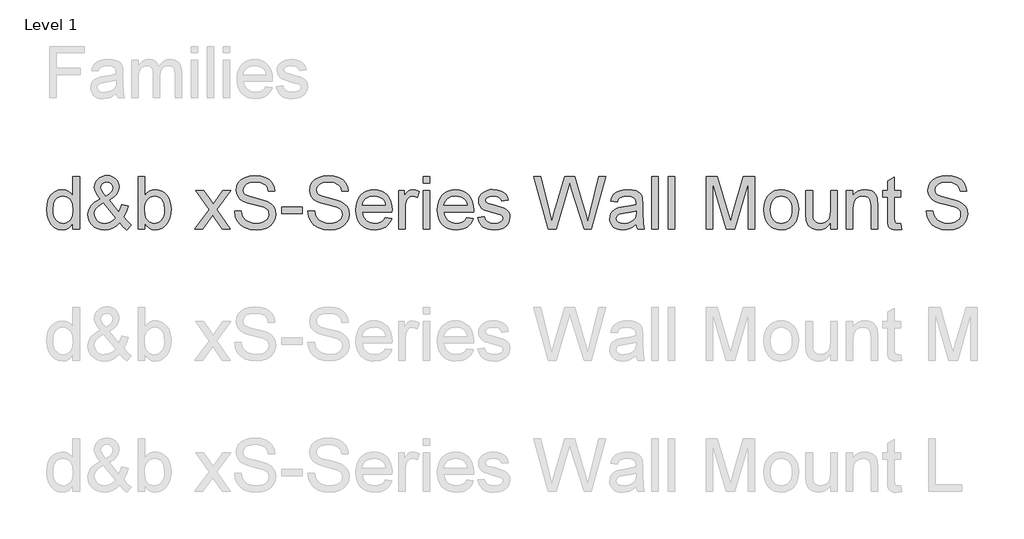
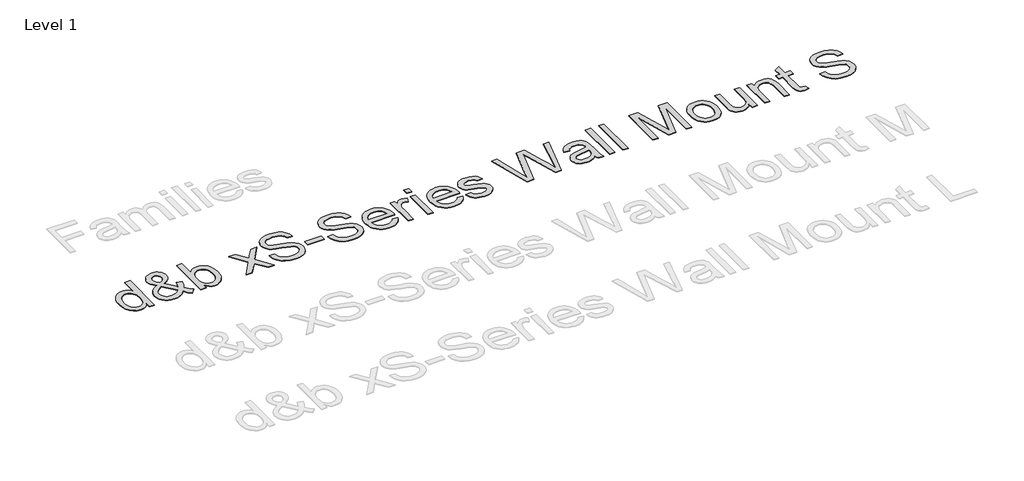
# One storey, part 42 of 55: 1 proxy.
"""IFC4 building model written with IfcOpenShell, lengths in millimetres."""

from ifc_helpers import new_model, si_unit, origin, origin_with_axes, place, context, project, spatial, polyline, outline, extrude, element, save

model = new_model("IFC4")

# Units and contexts
model_context = context("Model", 3, world=origin())
ifc_project = project(units=[si_unit("LENGTHUNIT", "METRE", prefix="MILLI")], contexts=[model_context])

# Site, building, storey
site = spatial("IfcSite", under=ifc_project)
building = spatial("IfcBuilding", under=site)
storey = spatial("IfcBuildingStorey", under=building, Name="Level 1", Elevation=0.0)

# Proxy
placement = place(None, origin())
element("IfcBuildingElementProxy", 1, Name="400mm Arial", ObjectType="400mm Arial", at=placement, inside=storey, context=model_context, shape_type="SweptSolid", body=[
    extrude(outline(polyline([(-20879.8211974, 5351.3054836), (-20879.8211974, 5398.6886846), (-20894.8491769, 5375.2116819), (-20913.0532043, 5358.4423943), (-20934.4332796, 5348.3808217), (-20958.9894028, 5345.0269642), (-20991.4611202, 5349.8830065), (-21021.1859854, 5364.4511335), (-21046.3491139, 5387.7135384), (-21065.1356211, 5418.6524142), (-21076.8342686, 5456.0169621), (-21080.7338177, 5498.5563835), (-21077.1408369, 5540.5685074), (-21066.3618944, 5578.5094038), (-21048.4092531, 5610.2208318), (-21023.2951755, 5633.5445503), (-20992.9203855, 5647.8919481), (-20959.1856065, 5652.674414), (-20934.6110892, 5649.2531115), (-20912.8815261, 5638.9892038), (-20894.4629008, 5623.2561171), (-20879.8211974, 5603.4272776), (-20879.8211974, 5753.1307242), (-20829.5930424, 5753.1307242), (-20829.5930424, 5351.3054836), (-20879.8211974, 5351.3054836)]), holes=[polyline([(-21030.5056627, 5498.7525872), (-21029.089317, 5474.3957335), (-21024.8402799, 5453.3191608), (-21017.7585515, 5435.5228693), (-21007.8441318, 5421.0068589), (-20983.1469871, 5401.6930542), (-20969.2717046, 5396.864603), (-20954.3786151, 5395.2551193), (-20939.415015, 5396.7910266), (-20925.6225058, 5401.3987486), (-20901.5507606, 5419.8296365), (-20892.0440767, 5433.7386416), (-20885.2535882, 5450.8911397), (-20879.8211974, 5494.9266145), (-20885.3516901, 5543.0701049), (-20892.2648059, 5561.6052261), (-20901.9431681, 5576.4492646), (-20913.6448812, 5587.8229496), (-20926.6280499, 5595.9470104), (-20940.8926743, 5600.8214468), (-20956.4387543, 5602.4462589), (-20971.6261493, 5600.8858262), (-20985.5014319, 5596.2045278), (-20998.064602, 5588.4023638), (-21009.3156597, 5577.4793342), (-21018.586286, 5563.1963157), (-21025.2081619, 5545.3141851), (-21030.5056627, 5498.7525872)])]), origin_with_axes(), (0.0, 0.0, 1.0), 5.0),
    extrude(outline(polyline([(-20523.809528, 5400.9450275), (-20549.3405384, 5376.4808748), (-20577.0788409, 5359.00648), (-20607.0734862, 5348.5218431), (-20639.3735254, 5345.0269642), (-20668.6814577, 5347.6144009), (-20694.8010793, 5355.376711), (-20717.7323904, 5368.3138945), (-20737.4753908, 5386.4259514), (-20750.308341, 5403.7961129), (-20759.4747341, 5422.1595558), (-20764.9745699, 5441.5162802), (-20766.8078485, 5461.8662859), (-20760.9094739, 5497.0603301), (-20743.2143499, 5528.6736562), (-20713.796053, 5556.6817387), (-20672.7281596, 5581.0600523), (-20694.6416638, 5609.4114914), (-20707.7995765, 5631.8768186), (-20714.3846642, 5651.0557332), (-20716.5796934, 5669.5479349), (-20714.8506481, 5687.1020374), (-20709.6635119, 5703.4666548), (-20701.018285, 5718.6417871), (-20688.9149674, 5732.6274343), (-20674.1935562, 5744.3444759), (-20657.6940487, 5752.7137912), (-20639.4164449, 5757.7353805), (-20619.3607448, 5759.4092436), (-20600.212487, 5757.8089569), (-20582.8913764, 5753.0080968), (-20567.397413, 5745.0066634), (-20553.7305969, 5733.8046567), (-20542.5715097, 5720.3585698), (-20534.6007332, 5705.6248959), (-20529.8182672, 5689.603635), (-20528.2241119, 5672.2947871), (-20532.9452642, 5644.31123), (-20547.108721, 5618.436863), (-20570.7144823, 5594.6716861), (-20603.7625482, 5573.0156993), (-20531.069066, 5482.4676776), (-20518.6837055, 5508.3420446), (-20509.3885538, 5538.0914353), (-20459.1603987, 5527.2021282), (-20474.6114425, 5480.6773185), (-20494.6732739, 5444.5022557), (-20466.1256311, 5411.1966724), (-20434.0463211, 5383.6790991), (-20471.7174374, 5345.0269642), (-20497.3465498, 5368.47331), (-20523.809528, 5400.9450275)]), holes=[polyline([(-20557.4584678, 5437.1446158), (-20647.1235727, 5549.0788442), (-20681.3733865, 5527.2266537), (-20702.305872, 5506.9931439), (-20713.0112381, 5487.6670765), (-20716.5796934, 5468.5372127), (-20711.6991256, 5444.8456122), (-20697.0574222, 5420.2710949), (-20686.2784798, 5409.3266056), (-20673.4639236, 5401.5091132), (-20658.6137537, 5396.8186177), (-20641.7279702, 5395.2551193), (-20619.0051256, 5398.1736498), (-20595.5710425, 5406.9292412), (-20574.1480476, 5420.3201459), (-20557.4584678, 5437.1446158)]), polyline([(-20629.1709314, 5604.7026019), (-20602.9041569, 5621.3676562), (-20587.8700461, 5635.8499441), (-20580.8067117, 5649.9398245), (-20578.452267, 5665.4276565), (-20581.5547385, 5682.9756277), (-20590.862153, 5696.9674062), (-20604.829406, 5706.1276679), (-20621.9113933, 5709.1810885), (-20639.3612626, 5706.1521934), (-20653.6473468, 5697.0655081), (-20663.1754905, 5683.6132898), (-20666.3515384, 5667.4877957), (-20662.0350563, 5649.0936959), (-20648.9875082, 5628.639457), (-20629.1709314, 5604.7026019)])]), origin_with_axes(), (0.0, 0.0, 1.0), 5.0),
    extrude(outline(polyline([(-20333.590011, 5351.3054836), (-20383.8181661, 5351.3054836), (-20383.8181661, 5753.1307242), (-20333.590011, 5753.1307242), (-20333.590011, 5604.1139907), (-20317.0721094, 5625.3591759), (-20298.4204923, 5640.5343082), (-20277.6351595, 5649.6393876), (-20254.7161112, 5652.674414), (-20228.8417442, 5649.9398245), (-20204.3898543, 5641.736056), (-20182.758393, 5628.5781433), (-20165.3453119, 5610.9811212), (-20151.6968898, 5589.116668), (-20141.3594058, 5563.1564619), (-20134.8478945, 5534.1796234), (-20132.6773907, 5503.265273), (-20134.9245365, 5467.5929822), (-20141.6659741, 5436.2126481), (-20152.9017034, 5409.1242705), (-20168.6317244, 5386.3278495), (-20187.5132678, 5368.2587122), (-20208.2035643, 5355.3521855), (-20230.702614, 5347.6082695), (-20255.0104168, 5345.0269642), (-20278.6836232, 5348.3562962), (-20299.671291, 5358.3442924), (-20317.9734203, 5374.9909527), (-20333.590011, 5398.2962771), (-20333.590011, 5351.3054836)]), holes=[polyline([(-20333.590011, 5500.9108283), (-20330.1564457, 5459.0213318), (-20319.8557498, 5430.6698927), (-20307.6849872, 5415.1759293), (-20293.5399244, 5404.1088126), (-20277.4205617, 5397.4685426), (-20259.3268989, 5395.2551193), (-20244.3050508, 5396.8860628), (-20230.3377977, 5401.7788933), (-20217.4251396, 5409.9336109), (-20205.5670767, 5421.3502155), (-20195.6526569, 5435.9980502), (-20188.5709285, 5453.8464584), (-20184.3218914, 5474.8954399), (-20182.9055458, 5499.1449947), (-20188.3379366, 5545.1057186), (-20195.1284251, 5562.8989445), (-20204.6351089, 5577.2340795), (-20216.0670419, 5588.264408), (-20228.6332778, 5596.1432141), (-20242.3338164, 5600.8704977), (-20257.1686579, 5602.4462589), (-20272.190506, 5600.8153154), (-20286.1577591, 5595.9224849), (-20299.0704171, 5587.7677673), (-20310.9284801, 5576.3511628), (-20320.8428999, 5561.8504808), (-20327.9246283, 5544.443531), (-20332.1736653, 5524.1303135), (-20333.590011, 5500.9108283)])]), origin_with_axes(), (0.0, 0.0, 1.0), 5.0),
    extrude(outline(polyline([(-19950.6003285, 5351.3054836), (-19843.2768878, 5499.7336059), (-19944.3218092, 5646.3958946), (-19884.0872638, 5646.3958946), (-19835.3306367, 5575.6644497), (-19812.4729021, 5542.4079173), (-19792.6563253, 5569.6802359), (-19737.1306695, 5646.3958946), (-19676.6999204, 5646.3958946), (-19782.8461387, 5499.635504), (-19680.623995, 5351.3054836), (-19740.9566422, 5351.3054836), (-19802.5646137, 5440.5781811), (-19813.7482263, 5456.9611926), (-19890.1695795, 5351.3054836), (-19950.6003285, 5351.3054836)])), origin_with_axes(), (0.0, 0.0, 1.0), 5.0),
    extrude(outline(polyline([(-19649.2313981, 5489.43291), (-19599.003243, 5489.43291), (-19593.2397584, 5461.5597175), (-19582.8164352, 5439.155704), (-19566.556051, 5421.3747409), (-19543.2813835, 5407.3706996), (-19514.8318425, 5398.2840144), (-19483.0468381, 5395.2551193), (-19455.063281, 5397.5482504), (-19430.5623402, 5404.4276437), (-19410.7089752, 5415.3169507), (-19396.6681457, 5429.6398231), (-19388.3172244, 5446.0841483), (-19385.533584, 5463.3378138), (-19387.6182486, 5480.150021), (-19393.8722425, 5494.6813598), (-19406.5764341, 5507.0789831), (-19428.0116917, 5517.4900435), (-19501.1466323, 5536.6689582), (-19549.1552327, 5549.360887), (-19579.8733793, 5561.4396792), (-19604.8770922, 5578.3377255), (-19622.5967416, 5598.8164899), (-19633.1549549, 5622.434514), (-19636.6743593, 5648.7503394), (-19632.3210891, 5678.1686363), (-19619.2612782, 5705.6003704), (-19597.8382834, 5728.8505125), (-19568.395461, 5745.7240333), (-19533.054264, 5755.987941), (-19493.9361452, 5759.4092436), (-19451.5561394, 5755.8285255), (-19414.4736342, 5745.0863712), (-19384.013005, 5727.40351), (-19361.4986269, 5703.000671), (-19347.249331, 5673.3984331), (-19341.5839483, 5640.1173753), (-19391.8121033, 5640.1173753), (-19401.0336787, 5670.0874951), (-19409.3968627, 5681.9455581), (-19420.2616443, 5691.7189564), (-19450.3053406, 5704.8155555), (-19491.9741079, 5709.1810885), (-19534.6238939, 5704.8646064), (-19550.9271976, 5699.4690038), (-19563.8827752, 5691.9151602), (-19580.805347, 5672.8588728), (-19586.4462043, 5650.2218674), (-19582.4485532, 5630.9203254), (-19570.4556002, 5615.3957052), (-19542.1041611, 5601.5142912), (-19488.4424407, 5587.3385717), (-19433.0639377, 5573.8740907), (-19399.5621507, 5562.1263923), (-19370.9286687, 5543.9039708), (-19350.9526764, 5521.4141181), (-19339.2172408, 5494.902089), (-19335.3054289, 5464.6131381), (-19339.805852, 5433.6497368), (-19353.3071212, 5404.5257455), (-19375.2574136, 5379.4607189), (-19405.1049061, 5360.6742117), (-19440.9979261, 5348.9387761), (-19481.0848008, 5345.0269642), (-19530.2951491, 5349.2453444), (-19570.7989567, 5361.900485), (-19603.0622077, 5383.041437), (-19627.5508858, 5412.7172513), (-19643.2717098, 5448.8677887), (-19649.2313981, 5489.43291)])), origin_with_axes(), (0.0, 0.0, 1.0), 5.0),
    extrude(outline(polyline([(-19291.3557932, 5470.5973519), (-19291.3557932, 5520.825507), (-19134.3928086, 5520.825507), (-19134.3928086, 5470.5973519), (-19291.3557932, 5470.5973519)])), origin_with_axes(), (0.0, 0.0, 1.0), 5.0),
    extrude(outline(polyline([(-19090.4431729, 5489.43291), (-19040.2150178, 5489.43291), (-19034.4515332, 5461.5597175), (-19024.02821, 5439.155704), (-19007.7678258, 5421.3747409), (-18984.4931583, 5407.3706996), (-18956.0436173, 5398.2840144), (-18924.2586129, 5395.2551193), (-18896.2750558, 5397.5482504), (-18871.774115, 5404.4276437), (-18851.9207499, 5415.3169507), (-18837.8799205, 5429.6398231), (-18829.5289992, 5446.0841483), (-18826.7453587, 5463.3378138), (-18828.8300234, 5480.150021), (-18835.0840173, 5494.6813598), (-18847.7882089, 5507.0789831), (-18869.2234665, 5517.4900435), (-18942.3584071, 5536.6689582), (-18990.3670075, 5549.360887), (-19021.0851541, 5561.4396792), (-19046.088867, 5578.3377255), (-19063.8085164, 5598.8164899), (-19074.3667297, 5622.434514), (-19077.8861341, 5648.7503394), (-19073.5328638, 5678.1686363), (-19060.473053, 5705.6003704), (-19039.0500582, 5728.8505125), (-19009.6072358, 5745.7240333), (-18974.2660388, 5755.987941), (-18935.14792, 5759.4092436), (-18892.7679141, 5755.8285255), (-18855.685409, 5745.0863712), (-18825.2247798, 5727.40351), (-18802.7104017, 5703.000671), (-18788.4611058, 5673.3984331), (-18782.7957231, 5640.1173753), (-18833.0238781, 5640.1173753), (-18842.2454535, 5670.0874951), (-18850.6086375, 5681.9455581), (-18861.4734191, 5691.7189564), (-18891.5171154, 5704.8155555), (-18933.1858827, 5709.1810885), (-18975.8356687, 5704.8646064), (-18992.1389724, 5699.4690038), (-19005.09455, 5691.9151602), (-19022.0171218, 5672.8588728), (-19027.657979, 5650.2218674), (-19023.660328, 5630.9203254), (-19011.667375, 5615.3957052), (-18983.3159359, 5601.5142912), (-18929.6542155, 5587.3385717), (-18874.2757125, 5573.8740907), (-18840.7739255, 5562.1263923), (-18812.1404435, 5543.9039708), (-18792.1644512, 5521.4141181), (-18780.4290156, 5494.902089), (-18776.5172037, 5464.6131381), (-18781.0176267, 5433.6497368), (-18794.518896, 5404.5257455), (-18816.4691883, 5379.4607189), (-18846.3166809, 5360.6742117), (-18882.2097009, 5348.9387761), (-18922.2965756, 5345.0269642), (-18971.5069238, 5349.2453444), (-19012.0107315, 5361.900485), (-19044.2739825, 5383.041437), (-19068.7626606, 5412.7172513), (-19084.4834846, 5448.8677887), (-19090.4431729, 5489.43291)])), origin_with_axes(), (0.0, 0.0, 1.0), 5.0),
    extrude(outline(polyline([(-18500.850962, 5439.204755), (-18451.6038255, 5432.9262356), (-18459.1546035, 5413.2016293), (-18469.3480004, 5395.819205), (-18482.1840164, 5380.7789628), (-18497.6626513, 5368.0809026), (-18515.6244897, 5357.9948045), (-18535.9101161, 5350.7904488), (-18583.4527326, 5345.0269642), (-18614.618469, 5347.5132333), (-18642.3874282, 5354.9720408), (-18666.7596104, 5367.4033865), (-18687.7350155, 5384.8072706), (-18704.602405, 5406.699315), (-18716.6505403, 5432.5951418), (-18723.8794215, 5462.4947509), (-18726.2890486, 5496.3981425), (-18723.8548961, 5531.4511652), (-18716.5524385, 5562.3471215), (-18704.3816758, 5589.0860112), (-18687.342608, 5611.6678343), (-18666.4223852, 5629.6082129), (-18642.6081574, 5642.4227691), (-18615.8999246, 5650.1115028), (-18586.2976867, 5652.674414), (-18557.6488763, 5650.1176342), (-18531.7407868, 5642.4472946), (-18508.5734182, 5629.6633952), (-18488.1467704, 5611.7659362), (-18471.472519, 5589.233164), (-18459.5623394, 5562.5433252), (-18452.4162316, 5531.6964199), (-18450.0341957, 5496.6924481), (-18450.3285013, 5483.1543906), (-18676.0608935, 5483.1543906), (-18673.1515601, 5463.1109533), (-18667.3666157, 5445.5568507), (-18658.7060604, 5430.492083), (-18647.1698942, 5417.9166502), (-18633.3957791, 5408.0022304), (-18618.0213774, 5400.920502), (-18582.4717139, 5395.2551193), (-18555.7389556, 5397.8793442), (-18533.2245775, 5405.7520189), (-18514.9285796, 5419.3636527), (-18500.850962, 5439.204755)]), holes=[polyline([(-18676.0608935, 5533.3825457), (-18500.2623508, 5533.3825457), (-18507.0559049, 5559.9191003), (-18520.3732332, 5578.9018113), (-18534.0707061, 5589.2025071), (-18549.65664, 5596.560147), (-18567.1310348, 5600.974731), (-18586.4938904, 5602.4462589), (-18620.3512967, 5597.7496321), (-18648.3471166, 5583.6597517), (-18667.8080741, 5561.6971966), (-18676.0608935, 5533.3825457)])]), origin_with_axes(), (0.0, 0.0, 1.0), 5.0),
    extrude(outline(polyline([(-18399.8060406, 5351.3054836), (-18399.8060406, 5646.3958946), (-18355.8564049, 5646.3958946), (-18355.8564049, 5602.7405645), (-18339.6205462, 5628.0508458), (-18324.6600117, 5642.9623293), (-18309.6504263, 5650.2463929), (-18293.2674148, 5652.674414), (-18268.2514391, 5648.7993903), (-18242.843056, 5637.1743193), (-18259.618475, 5592.1455631), (-18277.2768108, 5599.871085), (-18294.9351465, 5602.4462589), (-18309.9324692, 5599.9691868), (-18323.3356365, 5592.5379705), (-18334.1636299, 5580.7166958), (-18341.4354307, 5565.0694482), (-18347.5422718, 5537.0123147), (-18349.5778855, 5506.4045327), (-18349.5778855, 5351.3054836), (-18399.8060406, 5351.3054836)])), origin_with_axes(), (0.0, 0.0, 1.0), 5.0),
    extrude(outline(polyline([(-18211.4504591, 5702.9025691), (-18211.4504591, 5753.1307242), (-18161.222304, 5753.1307242), (-18161.222304, 5702.9025691), (-18211.4504591, 5702.9025691)])), origin_with_axes(), (0.0, 0.0, 1.0), 5.0),
    extrude(outline(polyline([(-18211.4504591, 5351.3054836), (-18211.4504591, 5646.3958946), (-18161.222304, 5646.3958946), (-18161.222304, 5351.3054836), (-18211.4504591, 5351.3054836)])), origin_with_axes(), (0.0, 0.0, 1.0), 5.0),
    extrude(outline(polyline([(-17879.2775429, 5439.204755), (-17830.0304065, 5432.9262356), (-17837.5811844, 5413.2016293), (-17847.7745814, 5395.819205), (-17860.6105973, 5380.7789628), (-17876.0892323, 5368.0809026), (-17894.0510707, 5357.9948045), (-17914.336697, 5350.7904488), (-17961.8793136, 5345.0269642), (-17993.0450499, 5347.5132333), (-18020.8140092, 5354.9720408), (-18045.1861914, 5367.4033865), (-18066.1615965, 5384.8072706), (-18083.0289859, 5406.699315), (-18095.0771213, 5432.5951418), (-18102.3060025, 5462.4947509), (-18104.7156295, 5496.3981425), (-18102.281477, 5531.4511652), (-18094.9790194, 5562.3471215), (-18082.8082567, 5589.0860112), (-18065.769189, 5611.6678343), (-18044.8489662, 5629.6082129), (-18021.0347384, 5642.4227691), (-17994.3265055, 5650.1115028), (-17964.7242676, 5652.674414), (-17936.0754573, 5650.1176342), (-17910.1673678, 5642.4472946), (-17886.9999991, 5629.6633952), (-17866.5733513, 5611.7659362), (-17849.8990999, 5589.233164), (-17837.9889203, 5562.5433252), (-17830.8428126, 5531.6964199), (-17828.4607766, 5496.6924481), (-17828.7550822, 5483.1543906), (-18054.4874745, 5483.1543906), (-18051.578141, 5463.1109533), (-18045.7931967, 5445.5568507), (-18037.1326413, 5430.492083), (-18025.5964751, 5417.9166502), (-18011.8223601, 5408.0022304), (-17996.4479584, 5400.920502), (-17960.8982949, 5395.2551193), (-17934.1655366, 5397.8793442), (-17911.6511585, 5405.7520189), (-17893.3551606, 5419.3636527), (-17879.2775429, 5439.204755)]), holes=[polyline([(-18054.4874745, 5533.3825457), (-17878.6889317, 5533.3825457), (-17885.4824859, 5559.9191003), (-17898.7998141, 5578.9018113), (-17912.4972871, 5589.2025071), (-17928.0832209, 5596.560147), (-17945.5576157, 5600.974731), (-17964.9204714, 5602.4462589), (-17998.7778777, 5597.7496321), (-18026.7736975, 5583.6597517), (-18046.234655, 5561.6971966), (-18054.4874745, 5533.3825457)])]), origin_with_axes(), (0.0, 0.0, 1.0), 5.0),
    extrude(outline(polyline([(-17797.0681797, 5439.204755), (-17746.8400246, 5445.4832743), (-17738.918299, 5423.9989658), (-17723.5898825, 5408.2045655), (-17700.7566734, 5398.4924808), (-17670.3205696, 5395.2551193), (-17640.2523479, 5398.2227007), (-17619.1113959, 5407.125445), (-17606.6034081, 5420.0258403), (-17602.4340788, 5434.9863747), (-17606.6279335, 5447.7886682), (-17619.2094978, 5457.5498038), (-17670.9091808, 5471.8726761), (-17746.545719, 5496.4471934), (-17765.6878455, 5508.7957657), (-17779.5569967, 5525.141989), (-17787.9814944, 5544.443531), (-17790.7896603, 5565.6580594), (-17788.5333174, 5585.119017), (-17781.7642887, 5603.0839211), (-17771.0957109, 5618.8415332), (-17757.1407205, 5631.6806148), (-17725.2085633, 5646.5430474), (-17704.3251287, 5651.1415724), (-17681.9946916, 5652.674414), (-17649.302245, 5650.2096047), (-17620.8772295, 5642.8151766), (-17598.0194949, 5631.214631), (-17582.0288908, 5616.1314692), (-17571.4338893, 5596.4497824), (-17564.7629625, 5571.053662), (-17614.9911176, 5564.7751426), (-17621.3309506, 5580.5818057), (-17633.8757267, 5592.4889196), (-17652.748073, 5599.9569241), (-17678.070617, 5602.4462589), (-17706.9125654, 5600.0672887), (-17726.140531, 5592.930378), (-17736.9562617, 5582.6296821), (-17740.5615053, 5570.7593564), (-17734.5772915, 5556.1421785), (-17715.8398352, 5545.0566677), (-17672.5769125, 5534.3635644), (-17598.8533607, 5510.7210148), (-17579.3801404, 5499.4147748), (-17564.6158097, 5483.9392056), (-17555.3083952, 5464.2452561), (-17552.2059237, 5440.2838755), (-17555.8479555, 5415.5131545), (-17566.7740507, 5392.2139614), (-17584.5672766, 5372.2134436), (-17608.8107, 5357.3387483), (-17638.0941069, 5348.1049102), (-17671.0072827, 5345.0269642), (-17698.040478, 5346.5107549), (-17721.6523707, 5350.962127), (-17741.8429609, 5358.3810806), (-17758.6122485, 5368.7676156), (-17772.3097214, 5382.0726811), (-17783.2848676, 5398.2472262), (-17791.5376871, 5417.2912508), (-17797.0681797, 5439.204755)])), origin_with_axes(), (0.0, 0.0, 1.0), 5.0),
    extrude(outline(polyline([(-17260.5490779, 5351.3054836), (-17370.1288616, 5753.1307242), (-17318.3310767, 5753.1307242), (-17254.7610679, 5489.0405026), (-17235.1406948, 5407.5178524), (-17214.1468956, 5479.6227235), (-17134.4881809, 5753.1307242), (-17059.8326614, 5753.1307242), (-17001.9525608, 5554.8668542), (-16977.1573143, 5481.2904552), (-16958.8858419, 5407.5178524), (-16939.85408, 5486.6860578), (-16875.7935619, 5753.1307242), (-16823.8976751, 5753.1307242), (-16933.3793569, 5351.3054836), (-16987.1391791, 5351.3054836), (-17083.5733128, 5661.3073782), (-17097.0132684, 5704.5703008), (-17112.1209556, 5652.4782103), (-17199.9221251, 5351.3054836), (-17260.5490779, 5351.3054836)])), origin_with_axes(), (0.0, 0.0, 1.0), 5.0),
    extrude(outline(polyline([(-16591.5924579, 5388.9765999), (-16615.5906267, 5368.3997336), (-16640.3000341, 5354.9352526), (-16666.2847657, 5347.5040363), (-16694.1089072, 5345.0269642), (-16716.4730669, 5346.5168863), (-16736.0842429, 5350.9866525), (-16752.9424353, 5358.4362629), (-16767.0476442, 5368.8657175), (-16778.1852716, 5381.6128286), (-16786.1407197, 5396.0154087), (-16790.9139886, 5412.0734578), (-16792.5050782, 5429.7869759), (-16790.1015825, 5450.6090968), (-16782.8910954, 5469.5182314), (-16771.7687964, 5485.7050391), (-16757.6298651, 5498.3601798), (-16741.0138616, 5507.9251117), (-16722.4603463, 5514.8412932), (-16679.00122, 5522.3951368), (-16627.6448934, 5530.3413879), (-16591.8867635, 5539.6610651), (-16591.5924579, 5550.8446778), (-16595.0505487, 5573.260954), (-16605.4248209, 5587.9271829), (-16628.6259121, 5598.8164899), (-16660.9504767, 5602.4462589), (-16690.8715457, 5600.0305005), (-16711.767243, 5592.7832252), (-16726.016539, 5579.3800578), (-16735.9984038, 5558.4966233), (-16786.2265588, 5564.7751426), (-16777.5077555, 5592.2436649), (-16764.4969957, 5613.8260753), (-16745.9802686, 5630.3317142), (-16720.7435637, 5642.5699219), (-16689.8782643, 5650.148291), (-16654.4757536, 5652.674414), (-16620.5202455, 5650.4425966), (-16593.6035462, 5643.7471443), (-16573.3087228, 5633.6794403), (-16559.2188423, 5621.330868), (-16549.8746397, 5606.0637652), (-16543.8168495, 5587.2404698), (-16541.3643028, 5543.2908341), (-16541.3643028, 5480.7999459), (-16538.8136543, 5393.5383366), (-16528.8072641, 5351.3054836), (-16579.0354191, 5351.3054836), (-16587.0797721, 5368.7676156), (-16591.5924579, 5388.9765999)]), holes=[polyline([(-16591.5924579, 5489.43291), (-16625.3394996, 5481.069726), (-16672.6245987, 5474.0309172), (-16715.8384704, 5465.8884623), (-16727.0833967, 5460.3211815), (-16735.4097926, 5452.6447105), (-16740.5601405, 5443.4476606), (-16742.2769231, 5433.318643), (-16738.5367895, 5418.382634), (-16727.3163887, 5406.1444263), (-16708.8609752, 5397.977446), (-16683.4158039, 5395.2551193), (-16656.4377909, 5398.2594889), (-16632.5990376, 5407.2725978), (-16613.2729702, 5420.5531378), (-16599.8330146, 5436.3598009), (-16593.8733263, 5452.6447105), (-16591.8867635, 5475.2081395), (-16591.5924579, 5489.43291)])]), origin_with_axes(), (0.0, 0.0, 1.0), 5.0),
    extrude(outline(polyline([(-16472.3005896, 5351.3054836), (-16472.3005896, 5753.1307242), (-16422.0724345, 5753.1307242), (-16422.0724345, 5351.3054836), (-16472.3005896, 5351.3054836)])), origin_with_axes(), (0.0, 0.0, 1.0), 5.0),
    extrude(outline(polyline([(-16346.7302019, 5351.3054836), (-16346.7302019, 5753.1307242), (-16296.5020469, 5753.1307242), (-16296.5020469, 5351.3054836), (-16346.7302019, 5351.3054836)])), origin_with_axes(), (0.0, 0.0, 1.0), 5.0),
    extrude(outline(polyline([(-16057.9183102, 5351.3054836), (-16057.9183102, 5753.1307242), (-15971.7848724, 5753.1307242), (-15889.3793055, 5469.9106388), (-15872.7019884, 5410.755214), (-15854.749347, 5474.8157321), (-15773.91341, 5753.1307242), (-15687.4856666, 5753.1307242), (-15687.4856666, 5351.3054836), (-15737.7138216, 5351.3054836), (-15737.7138216, 5702.9025691), (-15838.6606411, 5351.3054836), (-15906.6452338, 5351.3054836), (-16007.6901552, 5702.9025691), (-16007.6901552, 5351.3054836), (-16057.9183102, 5351.3054836)])), origin_with_axes(), (0.0, 0.0, 1.0), 5.0),
    extrude(outline(polyline([(-15618.4219533, 5498.8506891), (-15615.7057579, 5537.067497), (-15607.5571718, 5569.999067), (-15593.9761948, 5597.6453989), (-15574.962827, 5620.0064928), (-15555.8207005, 5634.2987084), (-15534.6920112, 5644.5074337), (-15511.5767592, 5650.6326689), (-15486.4749444, 5652.674414), (-15458.7642331, 5650.1881449), (-15433.7084036, 5642.7293374), (-15411.3074557, 5630.2979917), (-15391.5613897, 5612.8941076), (-15375.4450926, 5591.1062964), (-15363.9334518, 5565.5231694), (-15357.0264674, 5536.1447264), (-15354.7241392, 5502.9709675), (-15358.7953666, 5452.2277776), (-15371.0090489, 5413.6001681), (-15391.0095667, 5384.6723805), (-15418.4413008, 5363.0286565), (-15451.0233828, 5349.5273873), (-15486.4749444, 5345.0269642), (-15514.5903259, 5347.5040363), (-15539.8791474, 5354.9352526), (-15562.3414089, 5367.3206131), (-15581.9771104, 5384.6601178), (-15597.9217292, 5406.6594611), (-15609.3107426, 5433.0243374), (-15616.1441507, 5463.7547468), (-15618.4219533, 5498.8506891)]), holes=[polyline([(-15568.1937983, 5498.948791), (-15566.7406644, 5474.5858058), (-15562.3812627, 5453.4908391), (-15555.1155933, 5435.6638907), (-15544.9436562, 5421.1049608), (-15532.5705584, 5409.7956551), (-15518.7014072, 5401.7175796), (-15503.3362025, 5396.8707344), (-15486.4749444, 5395.2551193), (-15469.6995254, 5396.8799314), (-15454.3956344, 5401.7543678), (-15440.5632714, 5409.8784286), (-15428.2024364, 5421.2521136), (-15418.0304992, 5435.9551307), (-15410.7648298, 5454.0671876), (-15406.4054282, 5475.5882843), (-15404.9522943, 5500.5184208), (-15406.4146252, 5524.1088538), (-15410.801618, 5544.6519975), (-15418.1132727, 5562.1478521), (-15428.3495892, 5576.5964174), (-15440.7564095, 5587.9057231), (-15454.5795754, 5595.9837986), (-15469.8190871, 5600.8306439), (-15486.4749444, 5602.4462589), (-15503.3362025, 5600.8367752), (-15518.7014072, 5596.008324), (-15532.5705584, 5587.9609054), (-15544.9436562, 5576.6945193), (-15555.1155933, 5562.1785089), (-15562.3812627, 5544.3822174), (-15566.7406644, 5523.3056447), (-15568.1937983, 5498.948791)])]), origin_with_axes(), (0.0, 0.0, 1.0), 5.0),
    extrude(outline(polyline([(-15109.8618832, 5351.3054836), (-15109.8618832, 5402.024148), (-15128.0352538, 5377.0878801), (-15149.2007312, 5359.2762601), (-15173.3583156, 5348.5892882), (-15200.5080068, 5345.0269642), (-15224.9721595, 5347.5285618), (-15247.744055, 5355.0333545), (-15266.8493933, 5366.315069), (-15280.3138743, 5380.147432), (-15289.3760341, 5396.9473764), (-15295.2744088, 5417.1318352), (-15298.2174647, 5463.8283232), (-15298.2174647, 5646.3958946), (-15247.9893097, 5646.3958946), (-15247.9893097, 5487.4708727), (-15244.9481518, 5436.261699), (-15237.6273001, 5419.1797117), (-15225.0825241, 5406.1934773), (-15208.1476896, 5397.9897088), (-15187.6566625, 5395.2551193), (-15165.9884129, 5398.0510224), (-15145.718115, 5406.4387319), (-15129.0040097, 5419.6456955), (-15118.004338, 5436.8993611), (-15111.8974969, 5460.5296479), (-15109.8618832, 5492.8664753), (-15109.8618832, 5646.3958946), (-15059.6337281, 5646.3958946), (-15059.6337281, 5351.3054836), (-15109.8618832, 5351.3054836)])), origin_with_axes(), (0.0, 0.0, 1.0), 5.0),
    extrude(outline(polyline([(-14990.5700149, 5351.3054836), (-14990.5700149, 5646.3958946), (-14940.3418598, 5646.3958946), (-14940.3418598, 5605.1931112), (-14922.8919905, 5625.9661812), (-14901.9349795, 5640.8040883), (-14877.4708269, 5649.7068326), (-14849.4995325, 5652.674414), (-14824.7410742, 5650.2831811), (-14802.0672806, 5643.1094821), (-14783.158146, 5632.0484968), (-14769.693665, 5617.9954046), (-14760.5579288, 5600.9869937), (-14754.6350287, 5581.0600523), (-14751.9862783, 5532.4996289), (-14751.9862783, 5351.3054836), (-14802.2144334, 5351.3054836), (-14802.2144334, 5525.7306002), (-14803.6614359, 5551.7030691), (-14808.0024434, 5570.1707452), (-14816.0100082, 5583.4022343), (-14828.4566824, 5593.666142), (-14844.4104982, 5600.2512297), (-14862.939488, 5602.4462589), (-14892.3577849, 5597.5166402), (-14917.4350743, 5582.727784), (-14927.456793, 5570.6551232), (-14934.6151634, 5554.1556157), (-14938.9101857, 5533.2292616), (-14940.3418598, 5507.8760607), (-14940.3418598, 5351.3054836), (-14990.5700149, 5351.3054836)])), origin_with_axes(), (0.0, 0.0, 1.0), 5.0),
    extrude(outline(polyline([(-14576.1877355, 5393.1949801), (-14569.9092162, 5349.8339556), (-14607.4822306, 5345.0269642), (-14631.590764, 5347.1116288), (-14649.5679308, 5353.3656227), (-14662.2721224, 5363.004131), (-14670.56173, 5375.2423387), (-14675.1234668, 5396.2606634), (-14676.6440457, 5432.2395225), (-14676.6440457, 5596.1677396), (-14714.315162, 5596.1677396), (-14714.315162, 5646.3958946), (-14676.6440457, 5646.3958946), (-14676.6440457, 5718.1083582), (-14626.4158906, 5747.6370197), (-14626.4158906, 5646.3958946), (-14576.1877355, 5646.3958946), (-14576.1877355, 5596.1677396), (-14626.4158906, 5596.1677396), (-14626.4158906, 5433.7110505), (-14623.7671403, 5407.812158), (-14615.183227, 5398.6396336), (-14598.0644515, 5395.2551193), (-14576.1877355, 5393.1949801)])), origin_with_axes(), (0.0, 0.0, 1.0), 5.0),
    extrude(outline(polyline([(-14381.5536346, 5489.43291), (-14331.3254796, 5489.43291), (-14325.561995, 5461.5597175), (-14315.1386718, 5439.155704), (-14298.8782876, 5421.3747409), (-14275.60362, 5407.3706996), (-14247.1540791, 5398.2840144), (-14215.3690747, 5395.2551193), (-14187.3855176, 5397.5482504), (-14162.8845767, 5404.4276437), (-14143.0312117, 5415.3169507), (-14128.9903822, 5429.6398231), (-14120.6394609, 5446.0841483), (-14117.8558205, 5463.3378138), (-14119.9404851, 5480.150021), (-14126.194479, 5494.6813598), (-14138.8986706, 5507.0789831), (-14160.3339282, 5517.4900435), (-14233.4688688, 5536.6689582), (-14281.4774692, 5549.360887), (-14312.1956158, 5561.4396792), (-14337.1993287, 5578.3377255), (-14354.9189782, 5598.8164899), (-14365.4771914, 5622.434514), (-14368.9965959, 5648.7503394), (-14364.6433256, 5678.1686363), (-14351.5835148, 5705.6003704), (-14330.1605199, 5728.8505125), (-14300.7176976, 5745.7240333), (-14265.3765005, 5755.987941), (-14226.2583817, 5759.4092436), (-14183.8783759, 5755.8285255), (-14146.7958708, 5745.0863712), (-14116.3352416, 5727.40351), (-14093.8208635, 5703.000671), (-14079.5715675, 5673.3984331), (-14073.9061848, 5640.1173753), (-14124.1343399, 5640.1173753), (-14133.3559152, 5670.0874951), (-14141.7190992, 5681.9455581), (-14152.5838808, 5691.7189564), (-14182.6275771, 5704.8155555), (-14224.2963444, 5709.1810885), (-14266.9461304, 5704.8646064), (-14283.2494341, 5699.4690038), (-14296.2050117, 5691.9151602), (-14313.1275835, 5672.8588728), (-14318.7684408, 5650.2218674), (-14314.7707898, 5630.9203254), (-14302.7778367, 5615.3957052), (-14274.4263976, 5601.5142912), (-14220.7646773, 5587.3385717), (-14165.3861743, 5573.8740907), (-14131.8843872, 5562.1263923), (-14103.2509053, 5543.9039708), (-14083.2749129, 5521.4141181), (-14071.5394773, 5494.902089), (-14067.6276654, 5464.6131381), (-14072.1280885, 5433.6497368), (-14085.6293577, 5404.5257455), (-14107.5796501, 5379.4607189), (-14137.4271426, 5360.6742117), (-14173.3201626, 5348.9387761), (-14213.4070374, 5345.0269642), (-14262.6173856, 5349.2453444), (-14303.1211933, 5361.900485), (-14335.3844442, 5383.041437), (-14359.8731224, 5412.7172513), (-14375.5939463, 5448.8677887), (-14381.5536346, 5489.43291)])), origin_with_axes(), (0.0, 0.0, 1.0), 5.0),
])

save(model, "model.ifc")
